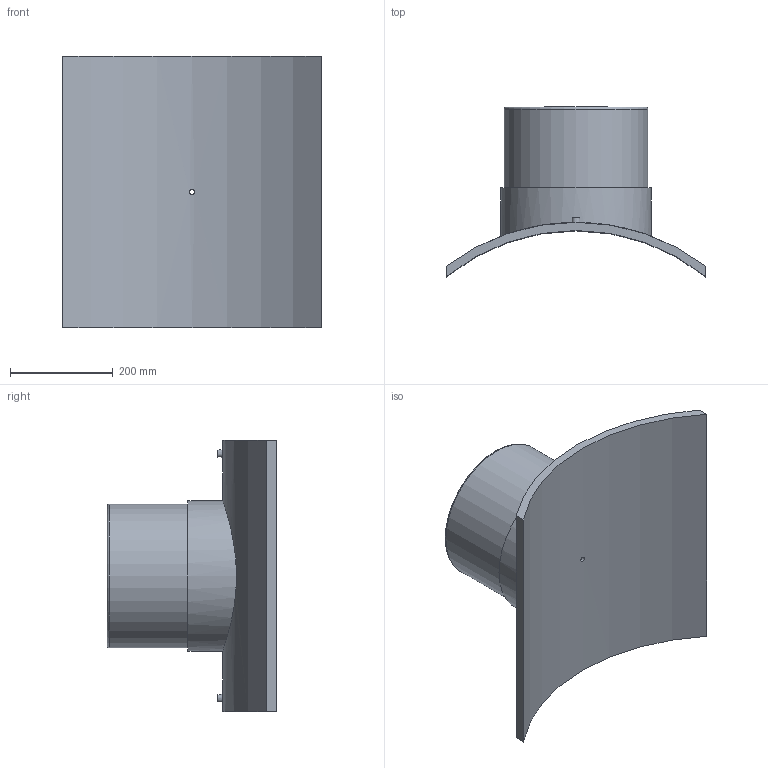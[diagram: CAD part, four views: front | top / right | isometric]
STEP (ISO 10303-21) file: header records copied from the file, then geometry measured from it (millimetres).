
FILE_DESCRIPTION(/* description */ ('PLASSON BRANCH SADDLE 800x280'),/* implementation_level */ '2;1');
FILE_NAME(/* name */ 'C:\Dropbox\KIMPROJECTS-Inventor 2019\99-16-3568-Processing\ElectroFusion Fittings\495803\stp\495803800280T.stp',/* time_stamp */ '2024-04-04T11:57:39+02:00',/* author */ ('KIM'),/* organization */ (''),/* preprocessor_version */ 'ST-DEVELOPER v17.2',/* originating_system */ 'Autodesk Inventor 2019',/* authorisation */ '');
FILE_SCHEMA (('AUTOMOTIVE_DESIGN { 1 0 10303 214 3 1 1 }'));
Length unit declared in the file: millimetre
Products named in the file (1): 495803800280T
Bounding box: 505 x 330.77 x 530 mm (x, y, z)
Volume: 10338716.8 mm3; surface area: 1001096.7 mm2
Topology: 1 solids, 1 shells, 29 faces, 60 edges, 43 vertices
Faces by surface type: plane 13, cylinder 12, torus 2, cone 2
Full cylindrical faces by diameter (mm): 4 x2, 9.6 x1, 10 x2, 16 x1, 224 x1, 280 x1, 294 x1
Entity records: 1086 total; most frequent: CARTESIAN_POINT 400, DIRECTION 139, ORIENTED_EDGE 120, EDGE_CURVE 60, AXIS2_PLACEMENT_3D 60, VERTEX_POINT 43, EDGE_LOOP 41, CIRCLE 30
